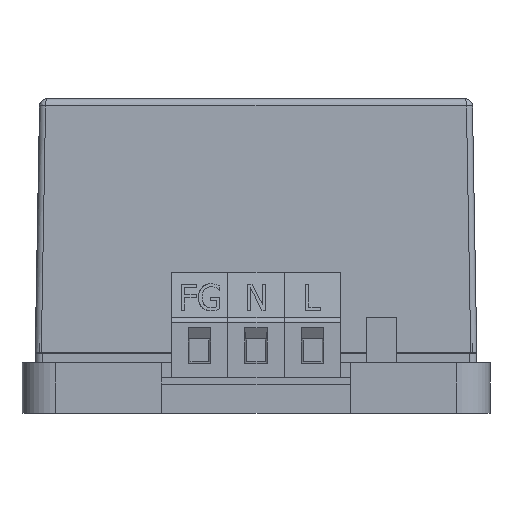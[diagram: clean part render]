
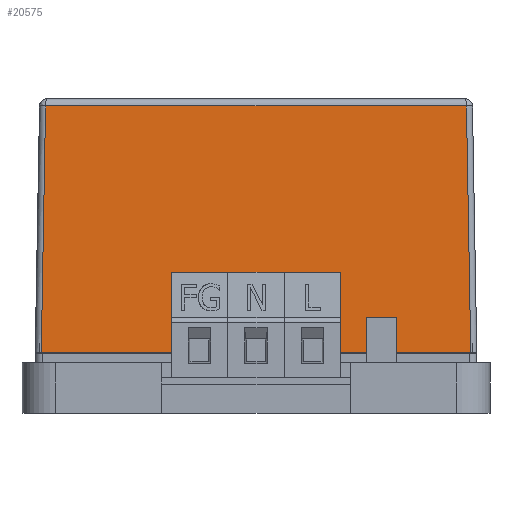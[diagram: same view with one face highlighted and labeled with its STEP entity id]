
A CAD part, left-side view. The second image highlights one B-rep face of the part: STEP entity #20575.
In plain terms, the highlighted planar face has unit normal (-1, 0, 0.018) as drawn and (-1, 0, -0.017) by its records, which use the part's own axes.
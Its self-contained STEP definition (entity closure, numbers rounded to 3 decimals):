
#2431=FACE_OUTER_BOUND($,#3751,.T.);
#3751=EDGE_LOOP($,(#17835,#17836,#17837,#17838));
#5839=LINE($,#33432,#8108);
#5840=LINE($,#33435,#8109);
#5841=LINE($,#33437,#8110);
#5842=LINE($,#33438,#8111);
#8108=VECTOR($,#26439,32.727);
#8109=VECTOR($,#26442,55.758);
#8110=VECTOR($,#26443,56.9);
#8111=VECTOR($,#26444,32.727);
#10112=VERTEX_POINT($,#33412);
#10113=VERTEX_POINT($,#33430);
#10114=VERTEX_POINT($,#33434);
#10115=VERTEX_POINT($,#33436);
#12756=EDGE_CURVE($,#10113,#10112,#5839,.T.);
#12757=EDGE_CURVE($,#10112,#10114,#5840,.T.);
#12758=EDGE_CURVE($,#10115,#10113,#5841,.T.);
#12759=EDGE_CURVE($,#10115,#10114,#5842,.T.);
#17835=ORIENTED_EDGE($,*,*,#12757,.F.);
#17836=ORIENTED_EDGE($,*,*,#12756,.F.);
#17837=ORIENTED_EDGE($,*,*,#12758,.F.);
#17838=ORIENTED_EDGE($,*,*,#12759,.T.);
#19500=PLANE($,#21986);
#20575=ADVANCED_FACE($,(#2431),#19500,.T.);
#21986=AXIS2_PLACEMENT_3D($,#33433,#26440,#26441);
#26439=DIRECTION($,(0.017,0.017,-1.));
#26440=DIRECTION('center_axis',(-1.,0.,-0.017));
#26441=DIRECTION('ref_axis',(0.,-1.,0.));
#26442=DIRECTION($,(0.,1.,0.));
#26443=DIRECTION($,(0.,-1.,0.));
#26444=DIRECTION($,(0.017,-0.017,-1.));
#33412=CARTESIAN_POINT('',(-53.929,-27.879,0.983));
#33430=CARTESIAN_POINT('',(-54.5,-28.45,33.7));
#33432=CARTESIAN_POINT($,(-54.5,-28.45,33.7));
#33433=CARTESIAN_POINT('Origin',(-54.5,31.883,33.7));
#33434=CARTESIAN_POINT('',(-53.929,27.879,0.983));
#33435=CARTESIAN_POINT($,(-53.929,-27.879,0.983));
#33436=CARTESIAN_POINT('',(-54.5,28.45,33.7));
#33437=CARTESIAN_POINT($,(-54.5,28.45,33.7));
#33438=CARTESIAN_POINT($,(-54.5,28.45,33.7));
